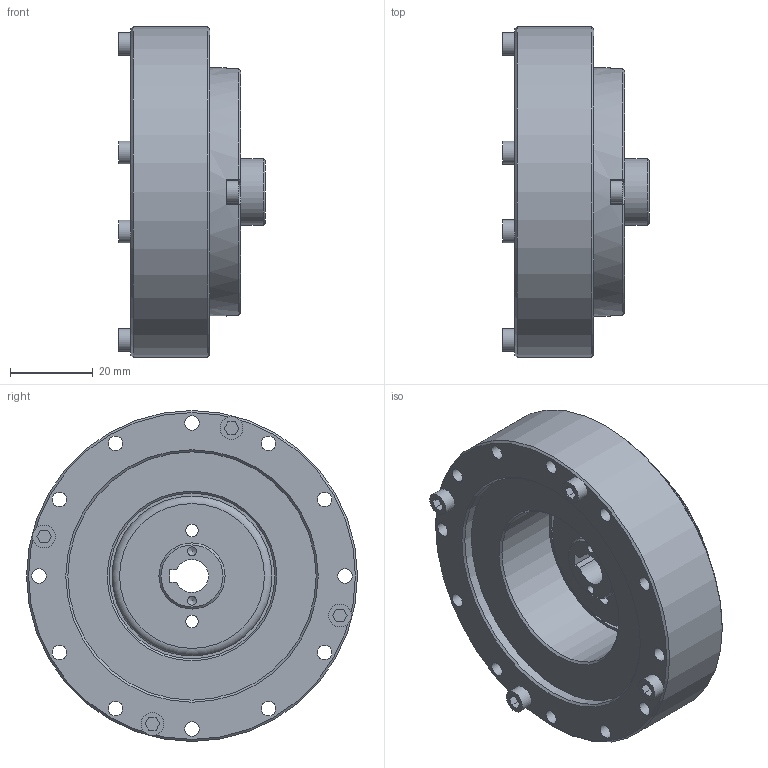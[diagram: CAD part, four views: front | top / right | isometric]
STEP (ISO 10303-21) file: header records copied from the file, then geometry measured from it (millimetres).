
FILE_DESCRIPTION(/* description */ (''),/* implementation_level */ '2;1');
FILE_NAME(/* name */ 'LHT-17',/* time_stamp */ '2017-09-16T13:02:47+08:00',/* author */ (''),/* organization */ (''),/* preprocessor_version */ 'ST-DEVELOPER v9',/* originating_system */ 'UGS - NX 4.0',/* authorisation */ '');
FILE_SCHEMA (('AUTOMOTIVE_DESIGN { 1 0 10303 214 1 1 1 1 }'));
Length unit declared in the file: millimetre
Products named in the file (1): Admi7ED1chg3
Bounding box: 35.5 x 80 x 80 mm (x, y, z)
Volume: 84350.9 mm3; surface area: 30540.4 mm2
Topology: 11 solids, 11 shells, 270 faces, 653 edges, 430 vertices
Faces by surface type: plane 116, cylinder 95, cone 57, torus 2
Full cylindrical faces by diameter (mm): 2.135 x2, 2.459 x20, 3 x4, 3.013 x2, 3.5 x41, 5.5 x9, 16 x2, 31.6 x2, 35 x1, 38.642 x2, 40 x2, 60 x2, 80 x1
Entity records: 6630 total; most frequent: DIRECTION 1178, CARTESIAN_POINT 1059, ORIENTED_EDGE 840, AXIS2_PLACEMENT_3D 487, EDGE_LOOP 472, EDGE_CURVE 420, VERTEX_POINT 368, FACE_BOUND 320
